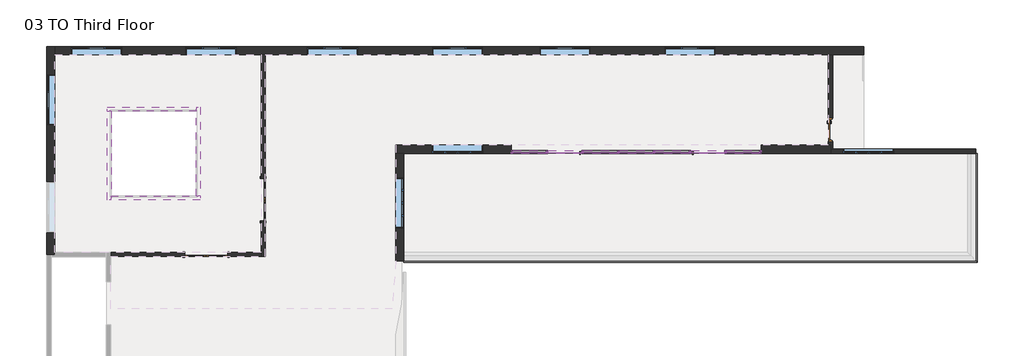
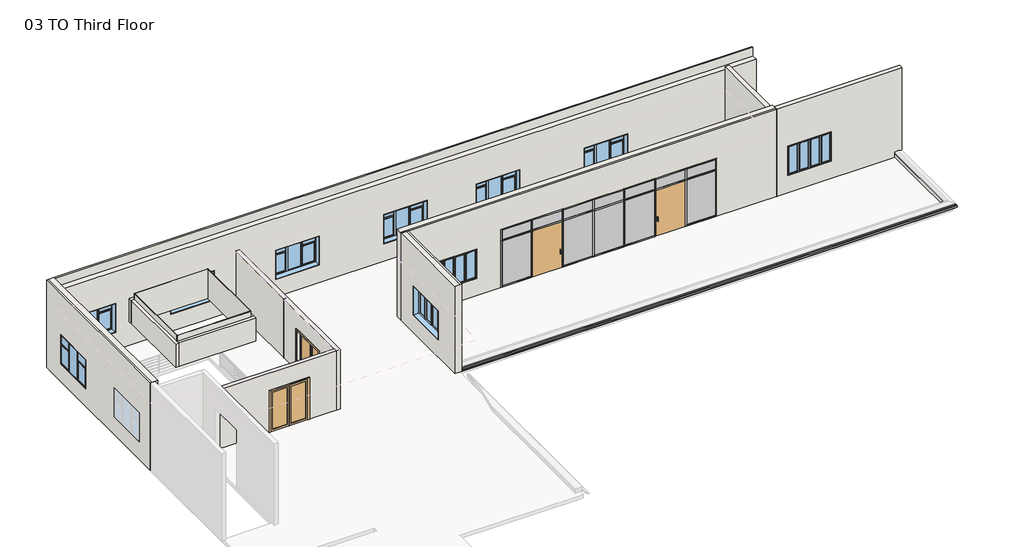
# One storey, part 2 of 3: 35 members, 15 walls, 12 plates, 10 windows, 5 doors, 2 proxies.
"""IFC4 building model written with IfcOpenShell, lengths in millimetres."""

from ifc_helpers import new_model, si_unit, frame, origin, place, context, project, spatial, polyline, outline, extrude, faceted_brep, transform, mapped, element, save
from components import door_curtain_wall_single_glass_single_glass_door_636c359d, door_curtain_wall_single_glass_single_glass_door_c1f067f7, door_38a2a0c9, door_c4c6d6d8, member_f0fea5a5, member_ee409385, member_5599eeff, member_9faf9a02, member_3e00a44d, member_1f7e5a3f, member_6e77e263, member_47bfaf8a, system_panel_glazed_c45153f5, system_panel_glazed_32f3d69c, system_panel_glazed_47a57bc4, system_panel_glazed_e930eb41, window_c7d59df6, window_634df5ac, window_casement_triple_side_transom_c3c25feb

model = new_model("IFC4")

# Units and contexts
model_context = context("Model", 3, world=origin())
ifc_project = project(units=[si_unit("LENGTHUNIT", "METRE", prefix="MILLI")], contexts=[model_context])

# Site, building, storey
site = spatial("IfcSite", under=ifc_project)
building = spatial("IfcBuilding", under=site)
storey = spatial("IfcBuildingStorey", under=building, Name="03 TO Third Floor", Elevation=9144.0)

# Proxies
placement = place(None, origin())
element("IfcBuildingElementProxy", 1, Name="Reveals", at=placement, inside=storey, context=model_context, shape_type="SweptSolid", body=[
    extrude(outline(polyline([(-4282.7273699, 39.4996638), (-4282.7273699, 131.5746638), (20075.8726301, 131.5746638), (20167.9476301, 39.4996638), (-4282.7273699, 39.4996638)])), frame((0.0, 0.0, 9220.2), z_axis=(0.0, 0.0, 1.0), x_axis=(1.0, 0.0, 0.0)), (0.0, 0.0, 1.0), 67.7333333),
])
element("IfcBuildingElementProxy", 2, Name="Reveals", at=placement, inside=storey, context=model_context, shape_type="SweptSolid", body=[
    extrude(outline(polyline([(20167.9476301, 39.4996638), (20075.8726301, 131.5746638), (20075.8726301, 4678.1746638), (20167.9476301, 4678.1746638), (20167.9476301, 39.4996638)])), frame((0.0, 0.0, 9220.2), z_axis=(0.0, 0.0, 1.0), x_axis=(1.0, 0.0, 0.0)), (0.0, 0.0, 1.0), 67.7333333),
])

# Doors
door_curtain_wall_single_glass_single_glass_door_shape = door_curtain_wall_single_glass_single_glass_door_636c359d(model_context)
element("IfcDoor", 3, ObjectType="Door-Curtain-Wall-Single-Glass : Single Glass Door", at=placement, inside=storey, context=model_context, shape_type="MappedRepresentation", body=[
    mapped(door_curtain_wall_single_glass_single_glass_door_shape, transform((8671.2726299, 4741.6746638, 9144.0), x_axis=(1.0, 0.0, 0.0), y_axis=(0.0, 1.0, 0.0), z_axis=(0.0, 0.0, 1.0))),
])
door_curtain_wall_single_glass_single_glass_door_2_shape = door_curtain_wall_single_glass_single_glass_door_c1f067f7(model_context)
element("IfcDoor", 4, ObjectType="Door-Curtain-Wall-Single-Glass : Single Glass Door", at=placement, inside=storey, context=model_context, shape_type="MappedRepresentation", body=[
    mapped(door_curtain_wall_single_glass_single_glass_door_2_shape, transform((2575.2726302, 4741.6746638, 9144.0), x_axis=(-1.0, 0.0, 0.0), y_axis=(0.0, -1.0, 0.0), z_axis=(0.0, 0.0, 1.0))),
])
door_shape = door_38a2a0c9(model_context)
element("IfcDoor", 5, ObjectType="Door-Double-Glass : Door Double Glass_72\" x 84\"", at=placement, inside=storey, context=model_context, shape_type="MappedRepresentation", body=[
    mapped(door_shape, transform((-10289.0336199, 2706.4996638, 9144.0), x_axis=(0.0, -1.0, 0.0), y_axis=(1.0, 0.0, 0.0), z_axis=(0.0, 0.0, 1.0))),
])
element("IfcDoor", 6, ObjectType="Door-Double-Glass : Door Double Glass_72\" x 84\"", at=placement, inside=storey, context=model_context, shape_type="MappedRepresentation", body=[
    mapped(door_shape, transform((-12715.5273699, 372.0809138, 9144.0), x_axis=(-1.0, 0.0, 0.0), y_axis=(0.0, -1.0, 0.0), z_axis=(0.0, 0.0, 1.0))),
])
door_2_shape = door_c4c6d6d8(model_context)
element("IfcDoor", 7, ObjectType="Door-Passage-Single-Flush : Door Passage Single Flush_36\" x 80\"", at=placement, inside=storey, context=model_context, shape_type="MappedRepresentation", body=[
    mapped(door_2_shape, transform((13910.0226301, 5694.1746638, 9144.0), x_axis=(0.0, -1.0, 0.0), y_axis=(1.0, 0.0, 0.0), z_axis=(0.0, 0.0, 1.0))),
])

# Members
member_shape = member_f0fea5a5(model_context)
element("IfcMember", 8, ObjectType="Rectangular Mullion : 2.5\" x 5\" rectangular", at=placement, inside=storey, context=model_context, shape_type="MappedRepresentation", body=[
    mapped(member_shape, transform((1813.2726303, 4741.6746638, 9144.0), x_axis=(1.0, 0.0, 0.0), y_axis=(0.0, -1.0, 0.0), z_axis=(0.0, 0.0, -1.0))),
])
element("IfcMember", 9, ObjectType="Rectangular Mullion : 2.5\" x 5\" rectangular", at=placement, inside=storey, context=model_context, shape_type="MappedRepresentation", body=[
    mapped(member_shape, transform((3337.2726302, 4741.6746638, 9144.0), x_axis=(1.0, 0.0, 0.0), y_axis=(0.0, -1.0, 0.0), z_axis=(0.0, 0.0, -1.0))),
])
element("IfcMember", 10, ObjectType="Rectangular Mullion : 2.5\" x 5\" rectangular", at=placement, inside=storey, context=model_context, shape_type="MappedRepresentation", body=[
    mapped(member_shape, transform((4861.2726301, 4741.6746638, 9144.0), x_axis=(1.0, 0.0, 0.0), y_axis=(0.0, -1.0, 0.0), z_axis=(0.0, 0.0, -1.0))),
])
element("IfcMember", 11, ObjectType="Rectangular Mullion : 2.5\" x 5\" rectangular", at=placement, inside=storey, context=model_context, shape_type="MappedRepresentation", body=[
    mapped(member_shape, transform((6385.27263, 4741.6746638, 9144.0), x_axis=(1.0, 0.0, 0.0), y_axis=(0.0, -1.0, 0.0), z_axis=(0.0, 0.0, -1.0))),
])
element("IfcMember", 12, ObjectType="Rectangular Mullion : 2.5\" x 5\" rectangular", at=placement, inside=storey, context=model_context, shape_type="MappedRepresentation", body=[
    mapped(member_shape, transform((7909.2726299, 4741.6746638, 9144.0), x_axis=(1.0, 0.0, 0.0), y_axis=(0.0, -1.0, 0.0), z_axis=(0.0, 0.0, -1.0))),
])
element("IfcMember", 13, ObjectType="Rectangular Mullion : 2.5\" x 5\" rectangular", at=placement, inside=storey, context=model_context, shape_type="MappedRepresentation", body=[
    mapped(member_shape, transform((9433.2726298, 4741.6746638, 9144.0), x_axis=(1.0, 0.0, 0.0), y_axis=(0.0, -1.0, 0.0), z_axis=(0.0, 0.0, -1.0))),
])
member_2_shape = member_ee409385(model_context)
element("IfcMember", 14, ObjectType="Rectangular Mullion : 2.5\" x 5\" rectangular", at=placement, inside=storey, context=model_context, shape_type="MappedRepresentation", body=[
    mapped(member_2_shape, transform((10957.2726301, 4741.6746638, 9144.0), x_axis=(1.0, 0.0, 0.0), y_axis=(0.0, -1.0, 0.0), z_axis=(0.0, 0.0, -1.0))),
])
element("IfcMember", 15, ObjectType="Rectangular Mullion : 2.5\" x 5\" rectangular", at=placement, inside=storey, context=model_context, shape_type="MappedRepresentation", body=[
    mapped(member_2_shape, transform((289.2726301, 4741.6746638, 11582.4), x_axis=(-1.0, 0.0, 0.0), y_axis=(0.0, -1.0, 0.0), z_axis=(0.0, 0.0, 1.0))),
])
member_3_shape = member_5599eeff(model_context)
element("IfcMember", 16, ObjectType="Rectangular Mullion : 2.5\" x 5\" rectangular", at=placement, inside=storey, context=model_context, shape_type="MappedRepresentation", body=[
    mapped(member_3_shape, transform((10893.7726301, 4741.6746638, 12192.0), x_axis=(0.0, 0.0, 1.0), y_axis=(0.0, -1.0, 0.0), z_axis=(1.0, 0.0, 0.0))),
])
element("IfcMember", 17, ObjectType="Rectangular Mullion : 2.5\" x 5\" rectangular", at=placement, inside=storey, context=model_context, shape_type="MappedRepresentation", body=[
    mapped(member_3_shape, transform((1781.5226303, 4741.6746638, 12192.0), x_axis=(0.0, 0.0, 1.0), y_axis=(0.0, -1.0, 0.0), z_axis=(1.0, 0.0, 0.0))),
])
member_4_shape = member_9faf9a02(model_context)
element("IfcMember", 18, ObjectType="Rectangular Mullion : 2.5\" x 5\" rectangular", at=placement, inside=storey, context=model_context, shape_type="MappedRepresentation", body=[
    mapped(member_4_shape, transform((3305.5226302, 4741.6746638, 12192.0), x_axis=(0.0, 0.0, 1.0), y_axis=(0.0, -1.0, 0.0), z_axis=(1.0, 0.0, 0.0))),
])
element("IfcMember", 19, ObjectType="Rectangular Mullion : 2.5\" x 5\" rectangular", at=placement, inside=storey, context=model_context, shape_type="MappedRepresentation", body=[
    mapped(member_4_shape, transform((4829.5226301, 4741.6746638, 12192.0), x_axis=(0.0, 0.0, 1.0), y_axis=(0.0, -1.0, 0.0), z_axis=(1.0, 0.0, 0.0))),
])
element("IfcMember", 20, ObjectType="Rectangular Mullion : 2.5\" x 5\" rectangular", at=placement, inside=storey, context=model_context, shape_type="MappedRepresentation", body=[
    mapped(member_4_shape, transform((6353.52263, 4741.6746638, 12192.0), x_axis=(0.0, 0.0, 1.0), y_axis=(0.0, -1.0, 0.0), z_axis=(1.0, 0.0, 0.0))),
])
element("IfcMember", 21, ObjectType="Rectangular Mullion : 2.5\" x 5\" rectangular", at=placement, inside=storey, context=model_context, shape_type="MappedRepresentation", body=[
    mapped(member_4_shape, transform((7877.5226299, 4741.6746638, 12192.0), x_axis=(0.0, 0.0, 1.0), y_axis=(0.0, -1.0, 0.0), z_axis=(1.0, 0.0, 0.0))),
])
element("IfcMember", 22, ObjectType="Rectangular Mullion : 2.5\" x 5\" rectangular", at=placement, inside=storey, context=model_context, shape_type="MappedRepresentation", body=[
    mapped(member_4_shape, transform((9401.5226298, 4741.6746638, 12192.0), x_axis=(0.0, 0.0, 1.0), y_axis=(0.0, -1.0, 0.0), z_axis=(1.0, 0.0, 0.0))),
])
element("IfcMember", 23, ObjectType="Rectangular Mullion : 2.5\" x 5\" rectangular", at=placement, inside=storey, context=model_context, shape_type="MappedRepresentation", body=[
    mapped(member_3_shape, transform((352.7726301, 4741.6746638, 9144.0), x_axis=(0.0, 0.0, -1.0), y_axis=(0.0, -1.0, 0.0), z_axis=(-1.0, 0.0, 0.0))),
])
element("IfcMember", 24, ObjectType="Rectangular Mullion : 2.5\" x 5\" rectangular", at=placement, inside=storey, context=model_context, shape_type="MappedRepresentation", body=[
    mapped(member_3_shape, transform((9465.0226298, 4741.6746638, 9144.0), x_axis=(0.0, 0.0, -1.0), y_axis=(0.0, -1.0, 0.0), z_axis=(-1.0, 0.0, 0.0))),
])
element("IfcMember", 25, ObjectType="Rectangular Mullion : 2.5\" x 5\" rectangular", at=placement, inside=storey, context=model_context, shape_type="MappedRepresentation", body=[
    mapped(member_4_shape, transform((3369.0226302, 4741.6746638, 9144.0), x_axis=(0.0, 0.0, -1.0), y_axis=(0.0, -1.0, 0.0), z_axis=(-1.0, 0.0, 0.0))),
])
element("IfcMember", 26, ObjectType="Rectangular Mullion : 2.5\" x 5\" rectangular", at=placement, inside=storey, context=model_context, shape_type="MappedRepresentation", body=[
    mapped(member_4_shape, transform((4893.0226301, 4741.6746638, 9144.0), x_axis=(0.0, 0.0, -1.0), y_axis=(0.0, -1.0, 0.0), z_axis=(-1.0, 0.0, 0.0))),
])
element("IfcMember", 27, ObjectType="Rectangular Mullion : 2.5\" x 5\" rectangular", at=placement, inside=storey, context=model_context, shape_type="MappedRepresentation", body=[
    mapped(member_4_shape, transform((6417.02263, 4741.6746638, 9144.0), x_axis=(0.0, 0.0, -1.0), y_axis=(0.0, -1.0, 0.0), z_axis=(-1.0, 0.0, 0.0))),
])
member_5_shape = member_3e00a44d(model_context)
element("IfcMember", 28, ObjectType="Rectangular Mullion : 2.5\" x 5\" rectangular", at=placement, inside=storey, context=model_context, shape_type="MappedRepresentation", body=[
    mapped(member_5_shape, transform((1781.5226303, 4741.6746638, 11582.4), x_axis=(0.0, 0.0, 1.0), y_axis=(0.0, -1.0, 0.0), z_axis=(1.0, 0.0, 0.0))),
])
element("IfcMember", 29, ObjectType="Rectangular Mullion : 2.5\" x 5\" rectangular", at=placement, inside=storey, context=model_context, shape_type="MappedRepresentation", body=[
    mapped(member_5_shape, transform((10893.7726301, 4741.6746638, 11582.4), x_axis=(0.0, 0.0, 1.0), y_axis=(0.0, -1.0, 0.0), z_axis=(1.0, 0.0, 0.0))),
])
member_6_shape = member_1f7e5a3f(model_context)
element("IfcMember", 30, ObjectType="Rectangular Mullion : 2.5\" x 5\" rectangular", at=placement, inside=storey, context=model_context, shape_type="MappedRepresentation", body=[
    mapped(member_6_shape, transform((3305.5226302, 4741.6746638, 11582.4), x_axis=(0.0, 0.0, 1.0), y_axis=(0.0, -1.0, 0.0), z_axis=(1.0, 0.0, 0.0))),
])
element("IfcMember", 31, ObjectType="Rectangular Mullion : 2.5\" x 5\" rectangular", at=placement, inside=storey, context=model_context, shape_type="MappedRepresentation", body=[
    mapped(member_6_shape, transform((4829.5226301, 4741.6746638, 11582.4), x_axis=(0.0, 0.0, 1.0), y_axis=(0.0, -1.0, 0.0), z_axis=(1.0, 0.0, 0.0))),
])
element("IfcMember", 32, ObjectType="Rectangular Mullion : 2.5\" x 5\" rectangular", at=placement, inside=storey, context=model_context, shape_type="MappedRepresentation", body=[
    mapped(member_6_shape, transform((6353.52263, 4741.6746638, 11582.4), x_axis=(0.0, 0.0, 1.0), y_axis=(0.0, -1.0, 0.0), z_axis=(1.0, 0.0, 0.0))),
])
element("IfcMember", 33, ObjectType="Rectangular Mullion : 2.5\" x 5\" rectangular", at=placement, inside=storey, context=model_context, shape_type="MappedRepresentation", body=[
    mapped(member_6_shape, transform((7877.5226299, 4741.6746638, 11582.4), x_axis=(0.0, 0.0, 1.0), y_axis=(0.0, -1.0, 0.0), z_axis=(1.0, 0.0, 0.0))),
])
element("IfcMember", 34, ObjectType="Rectangular Mullion : 2.5\" x 5\" rectangular", at=placement, inside=storey, context=model_context, shape_type="MappedRepresentation", body=[
    mapped(member_6_shape, transform((9401.5226298, 4741.6746638, 11582.4), x_axis=(0.0, 0.0, 1.0), y_axis=(0.0, -1.0, 0.0), z_axis=(1.0, 0.0, 0.0))),
])
member_7_shape = member_6e77e263(model_context)
element("IfcMember", 35, ObjectType="Rectangular Mullion : 2.5\" x 5\" rectangular", at=placement, inside=storey, context=model_context, shape_type="MappedRepresentation", body=[
    mapped(member_7_shape, transform((1813.2726303, 4741.6746638, 11582.4), x_axis=(1.0, 0.0, 0.0), y_axis=(0.0, -1.0, 0.0), z_axis=(0.0, 0.0, -1.0))),
])
element("IfcMember", 36, ObjectType="Rectangular Mullion : 2.5\" x 5\" rectangular", at=placement, inside=storey, context=model_context, shape_type="MappedRepresentation", body=[
    mapped(member_7_shape, transform((3337.2726302, 4741.6746638, 11582.4), x_axis=(1.0, 0.0, 0.0), y_axis=(0.0, -1.0, 0.0), z_axis=(0.0, 0.0, -1.0))),
])
element("IfcMember", 37, ObjectType="Rectangular Mullion : 2.5\" x 5\" rectangular", at=placement, inside=storey, context=model_context, shape_type="MappedRepresentation", body=[
    mapped(member_7_shape, transform((4861.2726301, 4741.6746638, 11582.4), x_axis=(1.0, 0.0, 0.0), y_axis=(0.0, -1.0, 0.0), z_axis=(0.0, 0.0, -1.0))),
])
element("IfcMember", 38, ObjectType="Rectangular Mullion : 2.5\" x 5\" rectangular", at=placement, inside=storey, context=model_context, shape_type="MappedRepresentation", body=[
    mapped(member_7_shape, transform((6385.27263, 4741.6746638, 11582.4), x_axis=(1.0, 0.0, 0.0), y_axis=(0.0, -1.0, 0.0), z_axis=(0.0, 0.0, -1.0))),
])
element("IfcMember", 39, ObjectType="Rectangular Mullion : 2.5\" x 5\" rectangular", at=placement, inside=storey, context=model_context, shape_type="MappedRepresentation", body=[
    mapped(member_7_shape, transform((7909.2726299, 4741.6746638, 11582.4), x_axis=(1.0, 0.0, 0.0), y_axis=(0.0, -1.0, 0.0), z_axis=(0.0, 0.0, -1.0))),
])
element("IfcMember", 40, ObjectType="Rectangular Mullion : 2.5\" x 5\" rectangular", at=placement, inside=storey, context=model_context, shape_type="MappedRepresentation", body=[
    mapped(member_7_shape, transform((9433.2726298, 4741.6746638, 11582.4), x_axis=(1.0, 0.0, 0.0), y_axis=(0.0, -1.0, 0.0), z_axis=(0.0, 0.0, -1.0))),
])
member_8_shape = member_47bfaf8a(model_context)
element("IfcMember", 41, ObjectType="Rectangular Mullion : 2.5\" x 5\" rectangular", at=placement, inside=storey, context=model_context, shape_type="MappedRepresentation", body=[
    mapped(member_8_shape, transform((10957.2726301, 4741.6746638, 11582.4), x_axis=(1.0, 0.0, 0.0), y_axis=(0.0, -1.0, 0.0), z_axis=(0.0, 0.0, -1.0))),
])
element("IfcMember", 42, ObjectType="Rectangular Mullion : 2.5\" x 5\" rectangular", at=placement, inside=storey, context=model_context, shape_type="MappedRepresentation", body=[
    mapped(member_8_shape, transform((289.2726301, 4741.6746638, 12192.0), x_axis=(-1.0, 0.0, 0.0), y_axis=(0.0, -1.0, 0.0), z_axis=(0.0, 0.0, 1.0))),
])

# Plates
system_panel_glazed_shape = system_panel_glazed_c45153f5(model_context)
element("IfcPlate", 43, ObjectType="System Panel : Glazed", at=placement, inside=storey, context=model_context, shape_type="MappedRepresentation", body=[
    mapped(system_panel_glazed_shape, transform((1067.1476302, 4741.6746638, 9207.5), x_axis=(1.0, 0.0, 0.0), y_axis=(0.0, 1.0, 0.0), z_axis=(0.0, 0.0, 1.0))),
])
element("IfcPlate", 44, ObjectType="System Panel : Glazed", at=placement, inside=storey, context=model_context, shape_type="MappedRepresentation", body=[
    mapped(system_panel_glazed_shape, transform((10179.3976299, 4741.6746638, 9207.5), x_axis=(1.0, 0.0, 0.0), y_axis=(0.0, 1.0, 0.0), z_axis=(0.0, 0.0, 1.0))),
])
system_panel_glazed_2_shape = system_panel_glazed_32f3d69c(model_context)
element("IfcPlate", 45, ObjectType="System Panel : Glazed", at=placement, inside=storey, context=model_context, shape_type="MappedRepresentation", body=[
    mapped(system_panel_glazed_2_shape, transform((4099.2726301, 4741.6746638, 9207.5), x_axis=(1.0, 0.0, 0.0), y_axis=(0.0, 1.0, 0.0), z_axis=(0.0, 0.0, 1.0))),
])
element("IfcPlate", 46, ObjectType="System Panel : Glazed", at=placement, inside=storey, context=model_context, shape_type="MappedRepresentation", body=[
    mapped(system_panel_glazed_2_shape, transform((5623.2726301, 4741.6746638, 9207.5), x_axis=(1.0, 0.0, 0.0), y_axis=(0.0, 1.0, 0.0), z_axis=(0.0, 0.0, 1.0))),
])
element("IfcPlate", 47, ObjectType="System Panel : Glazed", at=placement, inside=storey, context=model_context, shape_type="MappedRepresentation", body=[
    mapped(system_panel_glazed_2_shape, transform((7147.27263, 4741.6746638, 9207.5), x_axis=(1.0, 0.0, 0.0), y_axis=(0.0, 1.0, 0.0), z_axis=(0.0, 0.0, 1.0))),
])
system_panel_glazed_3_shape = system_panel_glazed_47a57bc4(model_context)
element("IfcPlate", 48, ObjectType="System Panel : Glazed", at=placement, inside=storey, context=model_context, shape_type="MappedRepresentation", body=[
    mapped(system_panel_glazed_3_shape, transform((1067.1476302, 4741.6746638, 11614.15), x_axis=(1.0, 0.0, 0.0), y_axis=(0.0, 1.0, 0.0), z_axis=(0.0, 0.0, 1.0))),
])
element("IfcPlate", 49, ObjectType="System Panel : Glazed", at=placement, inside=storey, context=model_context, shape_type="MappedRepresentation", body=[
    mapped(system_panel_glazed_3_shape, transform((10179.3976299, 4741.6746638, 11614.15), x_axis=(1.0, 0.0, 0.0), y_axis=(0.0, 1.0, 0.0), z_axis=(0.0, 0.0, 1.0))),
])
system_panel_glazed_4_shape = system_panel_glazed_e930eb41(model_context)
element("IfcPlate", 50, ObjectType="System Panel : Glazed", at=placement, inside=storey, context=model_context, shape_type="MappedRepresentation", body=[
    mapped(system_panel_glazed_4_shape, transform((2575.2726302, 4741.6746638, 11614.15), x_axis=(1.0, 0.0, 0.0), y_axis=(0.0, 1.0, 0.0), z_axis=(0.0, 0.0, 1.0))),
])
element("IfcPlate", 51, ObjectType="System Panel : Glazed", at=placement, inside=storey, context=model_context, shape_type="MappedRepresentation", body=[
    mapped(system_panel_glazed_4_shape, transform((4099.2726301, 4741.6746638, 11614.15), x_axis=(1.0, 0.0, 0.0), y_axis=(0.0, 1.0, 0.0), z_axis=(0.0, 0.0, 1.0))),
])
element("IfcPlate", 52, ObjectType="System Panel : Glazed", at=placement, inside=storey, context=model_context, shape_type="MappedRepresentation", body=[
    mapped(system_panel_glazed_4_shape, transform((5623.2726301, 4741.6746638, 11614.15), x_axis=(1.0, 0.0, 0.0), y_axis=(0.0, 1.0, 0.0), z_axis=(0.0, 0.0, 1.0))),
])
element("IfcPlate", 53, ObjectType="System Panel : Glazed", at=placement, inside=storey, context=model_context, shape_type="MappedRepresentation", body=[
    mapped(system_panel_glazed_4_shape, transform((7147.27263, 4741.6746638, 11614.15), x_axis=(1.0, 0.0, 0.0), y_axis=(0.0, 1.0, 0.0), z_axis=(0.0, 0.0, 1.0))),
])
element("IfcPlate", 54, ObjectType="System Panel : Glazed", at=placement, inside=storey, context=model_context, shape_type="MappedRepresentation", body=[
    mapped(system_panel_glazed_4_shape, transform((8671.2726299, 4741.6746638, 11614.15), x_axis=(1.0, 0.0, 0.0), y_axis=(0.0, 1.0, 0.0), z_axis=(0.0, 0.0, 1.0))),
])

# Walls
element("IfcWall", 55, ObjectType="Ext Wall_14\"_Brick on CMU_E1", at=placement, inside=storey, context=model_context, shape_type="Brep", body=[
    faceted_brep([(-19167.1273699, 8894.5746638, 9144.0), (-10378.7273699, 8894.5746638, 9144.0), (-10200.9273699, 8894.5746638, 9144.0), (-10194.5773699, 8894.5746638, 9144.0), (15326.0726301, 8894.5746638, 9144.0), (15326.0726301, 8894.5746638, 13258.8), (-19167.1273699, 8894.5746638, 13258.8), (8988.7726301, 8894.5746638, 11582.4), (8988.7726301, 8894.5746638, 10058.4), (6829.7726301, 8894.5746638, 10058.4), (6829.7726301, 8894.5746638, 11582.4), (3654.7726301, 8894.5746638, 11582.4), (3654.7726301, 8894.5746638, 10058.4), (1495.7726301, 8894.5746638, 10058.4), (1495.7726301, 8894.5746638, 11582.4), (-917.2273699, 8894.5746638, 11582.4), (-917.2273699, 8894.5746638, 10058.4), (-3076.2273699, 8894.5746638, 10058.4), (-3076.2273699, 8894.5746638, 11582.4), (-16309.6273699, 8894.5746638, 11582.4), (-16309.6273699, 8894.5746638, 10058.4), (-18468.6273699, 8894.5746638, 10058.4), (-18468.6273699, 8894.5746638, 11582.4), (-11432.8273699, 8894.5746638, 11582.4), (-11432.8273699, 8894.5746638, 10058.4), (-13591.8273699, 8894.5746638, 10058.4), (-13591.8273699, 8894.5746638, 11582.4), (-6251.2273699, 8894.5746638, 11582.4), (-6251.2273699, 8894.5746638, 10058.4), (-8410.2273699, 8894.5746638, 10058.4), (-8410.2273699, 8894.5746638, 11582.4), (-19167.1273699, 9250.1746638, 9144.0), (-19167.1273699, 9250.1746638, 13716.0), (15326.0726301, 9250.1746638, 13716.0), (15326.0726301, 9250.1746638, 9144.0), (-10200.9273699, 9250.1746638, 9144.0), (8988.7726301, 9250.1746638, 11582.4), (6829.7726301, 9250.1746638, 11582.4), (6829.7726301, 9250.1746638, 10058.4), (8988.7726301, 9250.1746638, 10058.4), (3654.7726301, 9250.1746638, 11582.4), (1495.7726301, 9250.1746638, 11582.4), (1495.7726301, 9250.1746638, 10058.4), (3654.7726301, 9250.1746638, 10058.4), (-917.2273699, 9250.1746638, 11582.4), (-3076.2273699, 9250.1746638, 11582.4), (-3076.2273699, 9250.1746638, 10058.4), (-917.2273699, 9250.1746638, 10058.4), (-16309.6273699, 9250.1746638, 11582.4), (-18468.6273699, 9250.1746638, 11582.4), (-18468.6273699, 9250.1746638, 10058.4), (-16309.6273699, 9250.1746638, 10058.4), (-11432.8273699, 9250.1746638, 11582.4), (-13591.8273699, 9250.1746638, 11582.4), (-13591.8273699, 9250.1746638, 10058.4), (-11432.8273699, 9250.1746638, 10058.4), (-6251.2273699, 9250.1746638, 11582.4), (-8410.2273699, 9250.1746638, 11582.4), (-8410.2273699, 9250.1746638, 10058.4), (-6251.2273699, 9250.1746638, 10058.4), (15326.0726301, 9173.9746638, 9144.0), (15326.0726301, 9173.9746638, 13716.0), (15326.0726301, 9173.9746638, 13258.8), (-19167.1273699, 9173.9746638, 13258.8), (-19167.1273699, 9173.9746638, 13716.0), (-19167.1273699, 9173.9746638, 9144.0)], [[[0, 1, 2, 3, 4, 5, 6], [7, 8, 9, 10], [11, 12, 13, 14], [15, 16, 17, 18], [19, 20, 21, 22], [23, 24, 25, 26], [27, 28, 29, 30]], [[31, 32, 33, 34, 35], [36, 37, 38, 39], [40, 41, 42, 43], [44, 45, 46, 47], [48, 49, 50, 51], [52, 53, 54, 55], [56, 57, 58, 59]], [[5, 4, 60, 34, 33, 61, 62]], [[0, 6, 63, 64, 32, 31, 65]], [[8, 7, 36, 39]], [[9, 8, 39, 38]], [[10, 9, 38, 37]], [[7, 10, 37, 36]], [[12, 11, 40, 43]], [[13, 12, 43, 42]], [[14, 13, 42, 41]], [[11, 14, 41, 40]], [[16, 15, 44, 47]], [[17, 16, 47, 46]], [[18, 17, 46, 45]], [[15, 18, 45, 44]], [[20, 19, 48, 51]], [[21, 20, 51, 50]], [[22, 21, 50, 49]], [[19, 22, 49, 48]], [[24, 23, 52, 55]], [[25, 24, 55, 54]], [[26, 25, 54, 53]], [[23, 26, 53, 52]], [[28, 27, 56, 59]], [[29, 28, 59, 58]], [[30, 29, 58, 57]], [[27, 30, 57, 56]], [[4, 3, 2, 1, 0, 65, 60]], [[65, 31, 35, 34, 60]], [[61, 33, 32, 64]], [[63, 62, 61, 64]], [[6, 5, 62, 63]]]),
])
element("IfcWall", 56, ObjectType="Ext Wall_14\"_Brick on CMU_E1", at=placement, inside=storey, context=model_context, shape_type="Brep", body=[
    faceted_brep([(-4638.3273699, 5033.7746638, 9144.0), (-4638.3273699, 5033.7746638, 13716.0), (13903.6726301, 5033.7746638, 13716.0), (13903.6726301, 5033.7746638, 9144.0), (10957.2726301, 5033.7746638, 9144.0), (10957.2726301, 5033.7746638, 12192.0), (289.2726301, 5033.7746638, 12192.0), (289.2726301, 5033.7746638, 9144.0), (-3076.2273699, 5033.7746638, 11582.4), (-3076.2273699, 5033.7746638, 10058.4), (-917.2273699, 5033.7746638, 10058.4), (-917.2273699, 5033.7746638, 11582.4), (13903.6726301, 4678.1746638, 13716.0), (-4282.7273699, 4678.1746638, 13716.0), (-4638.3273699, 4678.1746638, 13716.0), (-4638.3273699, 4678.1746638, 9144.0), (-4282.7273699, 4678.1746638, 9144.0), (289.2726301, 4678.1746638, 9144.0), (289.2726301, 4678.1746638, 12192.0), (10957.2726301, 4678.1746638, 12192.0), (10957.2726301, 4678.1746638, 9144.0), (13903.6726301, 4678.1746638, 9144.0), (-3076.2273699, 4678.1746638, 11582.4), (-917.2273699, 4678.1746638, 11582.4), (-917.2273699, 4678.1746638, 10058.4), (-3076.2273699, 4678.1746638, 10058.4), (-4638.3273699, 4754.3746638, 9144.0), (-4638.3273699, 4754.3746638, 13716.0), (289.2726301, 4754.3746638, 9144.0), (10957.2726301, 4754.3746638, 9144.0), (13903.6726301, 4754.3746638, 13716.0), (13903.6726301, 4754.3746638, 9144.0)], [[[0, 1, 2, 3, 4, 5, 6, 7], [8, 9, 10, 11]], [[12, 13, 14, 15, 16, 17, 18, 19, 20, 21], [22, 23, 24, 25]], [[1, 0, 26, 15, 14, 27]], [[6, 18, 17, 28, 7]], [[19, 5, 4, 29, 20]], [[5, 19, 18, 6]], [[9, 8, 22, 25]], [[10, 9, 25, 24]], [[11, 10, 24, 23]], [[8, 11, 23, 22]], [[3, 2, 30, 12, 21, 31]], [[26, 0, 7, 28]], [[3, 31, 29, 4]], [[31, 21, 20, 29]], [[15, 26, 28, 17, 16]], [[14, 13, 12, 30, 27]], [[2, 1, 27, 30]]]),
])
element("IfcWall", 57, ObjectType="Ext Wall_14\"_Brick on CMU_E1", at=placement, inside=storey, context=model_context, shape_type="Brep", body=[
    faceted_brep([(-4638.3273699, 4678.1746638, 9144.0), (-4638.3273699, 102.363521, 9144.0), (-4638.3273699, 102.363521, 13716.0), (-4638.3273699, 4678.1746638, 13716.0), (-4638.3273699, 1490.4746638, 11582.4), (-4638.3273699, 1490.4746638, 10058.4), (-4638.3273699, 3649.4746638, 10058.4), (-4638.3273699, 3649.4746638, 11582.4), (-4282.7273699, 4678.1746638, 9144.0), (-4282.7273699, 4678.1746638, 13716.0), (-4282.7273699, 106.1746638, 13716.0), (-4282.7273699, 106.1746638, 9287.9333333), (-4282.7273699, 106.1746638, 9220.2), (-4282.7273699, 106.1746638, 9144.0), (-4282.7273699, 461.7746638, 9144.0), (-4282.7273699, 1490.4746638, 11582.4), (-4282.7273699, 3649.4746638, 11582.4), (-4282.7273699, 3649.4746638, 10058.4), (-4282.7273699, 1490.4746638, 10058.4), (-4358.9273699, 4678.1746638, 13716.0), (-4358.9273699, 4678.1746638, 9144.0), (-4358.9273699, 105.3579904, 9144.0), (-4358.9273699, 105.3579904, 13716.0)], [[[0, 1, 2, 3], [4, 5, 6, 7]], [[8, 9, 10, 11, 12, 13, 14], [15, 16, 17, 18]], [[0, 3, 19, 9, 8, 20]], [[2, 1, 21, 13, 12, 11, 10, 22]], [[5, 4, 15, 18]], [[6, 5, 18, 17]], [[7, 6, 17, 16]], [[4, 7, 16, 15]], [[1, 0, 20, 21]], [[20, 8, 14, 13, 21]], [[22, 10, 9, 19]], [[3, 2, 22, 19]]]),
])
element("IfcWall", 58, ObjectType="Ext Wall_14\"_Brick on CMU_E1", at=placement, inside=storey, context=model_context, shape_type="Brep", body=[
    faceted_brep([(-19167.1273699, 360.1746638, 13716.0), (-19167.1273699, 360.1746638, 9144.0), (-19167.1273699, 8894.5746638, 9144.0), (-19167.1273699, 9250.1746638, 9144.0), (-19167.1273699, 9250.1746638, 13716.0), (-19167.1273699, 9173.9746638, 13716.0), (-19167.1273699, 8043.6746638, 11582.4), (-19167.1273699, 8043.6746638, 10058.4), (-19167.1273699, 5884.6746638, 10058.4), (-19167.1273699, 5884.6746638, 11582.4), (-19167.1273699, 3471.6746638, 11582.4), (-19167.1273699, 3471.6746638, 10058.4), (-19167.1273699, 1312.6746638, 10058.4), (-19167.1273699, 1312.6746638, 11582.4), (-19522.7273699, 360.1746638, 9144.0), (-19522.7273699, 360.1746638, 13716.0), (-19522.7273699, 9250.1746638, 13716.0), (-19522.7273699, 9250.1746638, 9144.0), (-19522.7273699, 8043.6746638, 11582.4), (-19522.7273699, 5884.6746638, 11582.4), (-19522.7273699, 5884.6746638, 10058.4), (-19522.7273699, 8043.6746638, 10058.4), (-19522.7273699, 3471.6746638, 11582.4), (-19522.7273699, 1312.6746638, 11582.4), (-19522.7273699, 1312.6746638, 10058.4), (-19522.7273699, 3471.6746638, 10058.4), (-19446.5273699, 9250.1746638, 9144.0), (-19446.5273699, 9250.1746638, 13716.0), (-19319.5273699, 360.1746638, 9144.0), (-19446.5273699, 360.1746638, 9144.0), (-19319.5273699, 360.1746638, 13716.0), (-19446.5273699, 360.1746638, 13716.0)], [[[0, 1, 2, 3, 4, 5], [6, 7, 8, 9], [10, 11, 12, 13]], [[14, 15, 16, 17], [18, 19, 20, 21], [22, 23, 24, 25]], [[4, 3, 26, 17, 16, 27]], [[3, 2, 1, 28, 29, 26]], [[29, 14, 17, 26]], [[6, 9, 19, 18]], [[9, 8, 20, 19]], [[8, 7, 21, 20]], [[7, 6, 18, 21]], [[10, 13, 23, 22]], [[13, 12, 24, 23]], [[12, 11, 25, 24]], [[11, 10, 22, 25]], [[0, 30, 31, 15, 14, 29, 28, 1]], [[27, 16, 15, 31]], [[0, 5, 4, 27, 31, 30]]]),
])
element("IfcWall", 59, ObjectType="Ext Wall_Brick on CIP_E4", at=placement, inside=storey, context=model_context, shape_type="Brep", body=[
    faceted_brep([(13903.6726301, 4678.1746638, 13716.0), (13903.6726301, 4678.1746638, 9144.0), (20101.2726301, 4678.1746638, 9144.0), (20101.2726301, 4678.1746638, 13716.0), (14449.7726301, 4678.1746638, 11582.4), (16608.7726301, 4678.1746638, 11582.4), (16608.7726301, 4678.1746638, 10058.4), (14449.7726301, 4678.1746638, 10058.4), (13903.6726301, 4881.3746638, 9144.0), (13903.6726301, 4881.3746638, 13411.2), (13903.6726301, 4881.3746638, 13716.0), (20101.2726301, 4881.3746638, 13716.0), (20101.2726301, 4881.3746638, 9144.0), (14005.2726301, 4881.3746638, 9144.0), (14449.7726301, 4881.3746638, 11582.4), (14449.7726301, 4881.3746638, 10058.4), (16608.7726301, 4881.3746638, 10058.4), (16608.7726301, 4881.3746638, 11582.4)], [[[0, 1, 2, 3], [4, 5, 6, 7]], [[8, 9, 10, 11, 12, 13], [14, 15, 16, 17]], [[2, 1, 8, 13, 12]], [[0, 3, 11, 10]], [[0, 10, 9, 8, 1]], [[15, 14, 4, 7]], [[16, 15, 7, 6]], [[17, 16, 6, 5]], [[14, 17, 5, 4]], [[3, 2, 12, 11]]]),
])
element("IfcWall", 60, ObjectType="IntWall_P1_7 1/4\"", at=placement, inside=storey, context=model_context, shape_type="SweptSolid", body=[
    extrude(outline(polyline([(-10194.5773699, 8894.5746638), (-10194.5773699, 4770.2496638), (-10378.7273699, 4770.2496638), (-10378.7273699, 8894.5746638), (-10194.5773699, 8894.5746638)])), frame((0.0, 0.0, 9144.0), z_axis=(0.0, 0.0, 1.0), x_axis=(1.0, 0.0, 0.0)), (0.0, 0.0, 1.0), 3098.8),
])
element("IfcWall", 61, ObjectType="IntWall_P1_7 1/4\"", at=placement, inside=storey, context=model_context, shape_type="Brep", body=[
    faceted_brep([(-10378.7273699, 1792.0996638, 11277.6), (-10378.7273699, 1792.0996638, 9144.0), (-10378.7273699, 461.7746638, 9144.0), (-10378.7273699, 277.6246638, 9144.0), (-10378.7273699, 277.6246638, 12242.8), (-10378.7273699, 461.7746638, 12242.8), (-10378.7273699, 4770.2496638, 12242.8), (-10378.7273699, 4770.2496638, 9144.0), (-10378.7273699, 3620.8996638, 9144.0), (-10378.7273699, 3620.8996638, 11277.6), (-10194.5773699, 277.6246638, 9144.0), (-10194.5773699, 1792.0996638, 9144.0), (-10194.5773699, 1792.0996638, 11277.6), (-10194.5773699, 3620.8996638, 11277.6), (-10194.5773699, 3620.8996638, 9144.0), (-10194.5773699, 4770.2496638, 9144.0), (-10194.5773699, 4770.2496638, 12242.8), (-10194.5773699, 277.6246638, 12242.8)], [[[0, 1, 2, 3, 4, 5, 6, 7, 8, 9]], [[10, 11, 12, 13, 14, 15, 16, 17]], [[8, 7, 15, 14]], [[3, 2, 1, 11, 10]], [[6, 5, 4, 17, 16]], [[7, 6, 16, 15]], [[4, 3, 10, 17]], [[12, 11, 1, 0]], [[13, 12, 0, 9]], [[14, 13, 9, 8]]]),
])
element("IfcWall", 62, ObjectType="IntWall_P1_7 1/4\"", at=placement, inside=storey, context=model_context, shape_type="SweptSolid", body=[
    extrude(outline(polyline([(9144.0, -16779.5273699), (9144.0, -13629.9273699), (11277.6, -13629.9273699), (11277.6, -11801.1273699), (9144.0, -11801.1273699), (9144.0, -10378.7273699), (12242.8, -10378.7273699), (12242.8, -16779.5273699), (9144.0, -16779.5273699)])), frame((0.0, 277.6246638, 0.0), z_axis=(0.0, 1.0, 0.0), x_axis=(0.0, 0.0, 1.0)), (0.0, 0.0, 1.0), 184.15),
])
element("IfcWall", 63, ObjectType="IntWall_P2_6 5/8\"", at=placement, inside=storey, context=model_context, shape_type="Brep", body=[
    faceted_brep([(-16928.7523699, 6487.9246638, 12192.0), (-16760.4773699, 6487.9246638, 12192.0), (-13140.9773699, 6487.9246638, 12192.0), (-13140.9773699, 6487.9246638, 13716.0), (-16760.4773699, 6487.9246638, 13716.0), (-16776.3523699, 6487.9246638, 13716.0), (-16776.3523699, 6487.9246638, 13411.2), (-16928.7523699, 6487.9246638, 13411.2), (-13140.9773699, 6656.1996638, 12192.0), (-16928.7523699, 6656.1996638, 12192.0), (-16928.7523699, 6656.1996638, 13411.2), (-13140.9773699, 6656.1996638, 13411.2), (-13140.9773699, 6503.7996638, 13411.2), (-13140.9773699, 6503.7996638, 13716.0), (-16776.3523699, 6503.7996638, 13411.2), (-16776.3523699, 6503.7996638, 13716.0)], [[[0, 1, 2, 3, 4, 5, 6, 7]], [[8, 9, 10, 11]], [[2, 1, 0, 9, 8]], [[7, 10, 9, 0]], [[3, 2, 8, 11, 12, 13]], [[11, 10, 7, 6, 14, 12]], [[13, 12, 14, 15]], [[3, 13, 15, 5, 4]], [[14, 6, 5, 15]]]),
])
element("IfcWall", 64, ObjectType="IntWall_P2_6 5/8\"", at=placement, inside=storey, context=model_context, shape_type="Brep", body=[
    faceted_brep([(-16760.4773699, 2700.1496638, 12192.0), (-16760.4773699, 2868.4246638, 12192.0), (-16760.4773699, 6487.9246638, 12192.0), (-16760.4773699, 6487.9246638, 13716.0), (-16760.4773699, 2868.4246638, 13716.0), (-16760.4773699, 2852.5496638, 13716.0), (-16760.4773699, 2852.5496638, 13411.2), (-16760.4773699, 2700.1496638, 13411.2), (-16928.7523699, 6487.9246638, 12192.0), (-16928.7523699, 2700.1496638, 12192.0), (-16928.7523699, 2700.1496638, 13411.2), (-16928.7523699, 6487.9246638, 13411.2), (-16776.3523699, 6487.9246638, 13411.2), (-16776.3523699, 6487.9246638, 13716.0), (-16776.3523699, 2852.5496638, 13411.2), (-16776.3523699, 2852.5496638, 13716.0)], [[[0, 1, 2, 3, 4, 5, 6, 7]], [[8, 9, 10, 11]], [[2, 1, 0, 9, 8]], [[7, 10, 9, 0]], [[3, 2, 8, 11, 12, 13]], [[11, 10, 7, 6, 14, 12]], [[13, 12, 14, 15]], [[3, 13, 15, 5, 4]], [[14, 6, 5, 15]]]),
])
element("IfcWall", 65, ObjectType="IntWall_P2_6 5/8\"", at=placement, inside=storey, context=model_context, shape_type="Brep", body=[
    faceted_brep([(-12972.7023699, 2868.4246638, 12192.0), (-13140.9773699, 2868.4246638, 12192.0), (-16760.4773699, 2868.4246638, 12192.0), (-16760.4773699, 2868.4246638, 13716.0), (-13140.9773699, 2868.4246638, 13716.0), (-13125.1023699, 2868.4246638, 13716.0), (-13125.1023699, 2868.4246638, 13411.2), (-12972.7023699, 2868.4246638, 13411.2), (-16760.4773699, 2700.1496638, 12192.0), (-12972.7023699, 2700.1496638, 12192.0), (-12972.7023699, 2700.1496638, 13411.2), (-16760.4773699, 2700.1496638, 13411.2), (-16760.4773699, 2852.5496638, 13411.2), (-16760.4773699, 2852.5496638, 13716.0), (-13125.1023699, 2852.5496638, 13411.2), (-13125.1023699, 2852.5496638, 13716.0)], [[[0, 1, 2, 3, 4, 5, 6, 7]], [[8, 9, 10, 11]], [[2, 1, 0, 9, 8]], [[7, 10, 9, 0]], [[3, 2, 8, 11, 12, 13]], [[11, 10, 7, 6, 14, 12]], [[13, 12, 14, 15]], [[3, 13, 15, 5, 4]], [[14, 6, 5, 15]]]),
])
element("IfcWall", 66, ObjectType="IntWall_P2_6 5/8\"", at=placement, inside=storey, context=model_context, shape_type="Brep", body=[
    faceted_brep([(-13140.9773699, 6656.1996638, 12192.0), (-13140.9773699, 6487.9246638, 12192.0), (-13140.9773699, 2868.4246638, 12192.0), (-13140.9773699, 2868.4246638, 13716.0), (-13140.9773699, 6487.9246638, 13716.0), (-13140.9773699, 6503.7996638, 13716.0), (-13140.9773699, 6503.7996638, 13411.2), (-13140.9773699, 6656.1996638, 13411.2), (-12972.7023699, 2868.4246638, 12192.0), (-12972.7023699, 6656.1996638, 12192.0), (-12972.7023699, 6656.1996638, 13411.2), (-12972.7023699, 2868.4246638, 13411.2), (-13125.1023699, 2868.4246638, 13411.2), (-13125.1023699, 2868.4246638, 13716.0), (-13125.1023699, 6503.7996638, 13411.2), (-13125.1023699, 6503.7996638, 13716.0)], [[[0, 1, 2, 3, 4, 5, 6, 7]], [[8, 9, 10, 11]], [[2, 1, 0, 9, 8]], [[7, 10, 9, 0]], [[3, 2, 8, 11, 12, 13]], [[11, 10, 7, 6, 14, 12]], [[13, 12, 14, 15]], [[3, 13, 15, 5, 4]], [[14, 6, 5, 15]]]),
])
element("IfcWall", 67, ObjectType="Parapet_14\"_Brick on CMU", at=placement, inside=storey, context=model_context, shape_type="Brep", body=[
    faceted_brep([(-4282.7273699, 106.1746638, 9144.0), (20101.2726301, 106.1746638, 9144.0), (20101.2726301, 106.1746638, 9220.2), (-4282.7273699, 106.1746638, 9220.2), (20101.2726301, 106.1746638, 9347.2), (-4282.7273699, 106.1746638, 9347.2), (-4282.7273699, 106.1746638, 9287.9333333), (20101.2726301, 106.1746638, 9287.9333333), (20101.2726301, 461.7746638, 9144.0), (19745.6726301, 461.7746638, 9144.0), (-4282.7273699, 461.7746638, 9144.0), (-4282.7273699, 461.7746638, 9347.2), (19745.6726301, 461.7746638, 9347.2), (20101.2726301, 461.7746638, 9347.2), (20101.2726301, 461.7746638, 9287.9333333), (20075.8726301, 461.7746638, 9287.9333333), (20075.8726301, 461.7746638, 9220.2), (20101.2726301, 461.7746638, 9220.2), (-4282.7273699, 131.5746638, 9220.2), (-4282.7273699, 131.5746638, 9287.9333333), (20075.8726301, 131.5746638, 9287.9333333), (20075.8726301, 131.5746638, 9220.2)], [[[0, 1, 2, 3]], [[4, 5, 6, 7]], [[8, 9, 10, 11, 12, 13, 14, 15, 16, 17]], [[1, 0, 10, 9, 8]], [[5, 4, 13, 12, 11]], [[1, 8, 17, 2]], [[13, 4, 7, 14]], [[5, 11, 10, 0, 3, 18, 19, 6]], [[20, 19, 18, 21]], [[21, 18, 3, 2, 17, 16]], [[19, 20, 15, 14, 7, 6]], [[20, 21, 16, 15]]]),
])
element("IfcWall", 68, ObjectType="Parapet_14\"_Brick on CMU", at=placement, inside=storey, context=model_context, shape_type="SweptSolid", body=[
    extrude(outline(polyline([(9347.2, 20101.2726301), (9347.2, 19745.6726301), (9144.0, 19745.6726301), (9144.0, 20101.2726301), (9220.2, 20101.2726301), (9220.2, 20075.8726301), (9287.9333333, 20075.8726301), (9287.9333333, 20101.2726301), (9347.2, 20101.2726301)])), frame((0.0, 461.7746638, 0.0), z_axis=(0.0, 1.0, 0.0), x_axis=(0.0, 0.0, 1.0)), (0.0, 0.0, 1.0), 4216.4),
])
element("IfcWall", 69, ObjectType="Shear Wall_S1_8\" CIP", at=placement, inside=storey, context=model_context, shape_type="Brep", body=[
    faceted_brep([(13802.0726301, 5033.7746638, 13411.2), (13802.0726301, 8894.5746638, 13411.2), (13802.0726301, 8894.5746638, 9144.0), (13802.0726301, 6202.1746638, 9144.0), (13802.0726301, 6202.1746638, 11277.6), (13802.0726301, 5186.1746638, 11277.6), (13802.0726301, 5186.1746638, 9144.0), (13802.0726301, 5033.7746638, 9144.0), (14005.2726301, 4881.3746638, 13411.2), (14005.2726301, 4881.3746638, 9144.0), (14005.2726301, 5186.1746638, 9144.0), (14005.2726301, 5186.1746638, 11277.6), (14005.2726301, 6202.1746638, 11277.6), (14005.2726301, 6202.1746638, 9144.0), (14005.2726301, 8894.5746638, 9144.0), (14005.2726301, 8894.5746638, 13411.2), (13903.6726301, 4881.3746638, 9144.0), (13903.6726301, 5033.7746638, 9144.0), (13903.6726301, 5033.7746638, 13411.2), (13903.6726301, 4881.3746638, 13411.2)], [[[0, 1, 2, 3, 4, 5, 6, 7]], [[8, 9, 10, 11, 12, 13, 14, 15]], [[2, 14, 13, 3]], [[9, 16, 17, 7, 6, 10]], [[1, 0, 18, 19, 8, 15]], [[2, 1, 15, 14]], [[0, 7, 17, 18]], [[17, 16, 19, 18]], [[9, 8, 19, 16]], [[5, 11, 10, 6]], [[11, 5, 4, 12]], [[12, 4, 3, 13]]]),
])

# Windows
window_shape = window_c7d59df6(model_context)
element("IfcWindow", 70, ObjectType="Window-Casement-Multi-Sash-Horizontal : Multi Sash Window_A_85\" x 60\"", at=placement, inside=storey, context=model_context, shape_type="MappedRepresentation", body=[
    mapped(window_shape, transform((-1996.7273699, 4855.9746638, 9144.0), x_axis=(-1.0, 0.0, 0.0), y_axis=(0.0, -1.0, 0.0), z_axis=(0.0, 0.0, 1.0))),
])
element("IfcWindow", 71, ObjectType="Window-Casement-Multi-Sash-Horizontal : Multi Sash Window_A_85\" x 60\"", at=placement, inside=storey, context=model_context, shape_type="MappedRepresentation", body=[
    mapped(window_shape, transform((-4460.5273699, 2569.9746638, 9144.0), x_axis=(0.0, -1.0, 0.0), y_axis=(1.0, 0.0, 0.0), z_axis=(0.0, 0.0, 1.0))),
])
window_2_shape = window_634df5ac(model_context)
element("IfcWindow", 72, ObjectType="Window-Casement-Multi-Sash-Horizontal : Multi Sash Window_A_85\" x 60\"", at=placement, inside=storey, context=model_context, shape_type="MappedRepresentation", body=[
    mapped(window_2_shape, transform((15529.2726301, 4779.7746638, 9144.0), x_axis=(-1.0, 0.0, 0.0), y_axis=(0.0, -1.0, 0.0), z_axis=(0.0, 0.0, 1.0))),
])
window_casement_triple_side_transom_shape = window_casement_triple_side_transom_c3c25feb(model_context)
element("IfcWindow", 73, ObjectType="Window-Casement-Triple-Side-Transom : Triple Side WIndow_B_85\" x 60\"", at=placement, inside=storey, context=model_context, shape_type="MappedRepresentation", body=[
    mapped(window_casement_triple_side_transom_shape, transform((-1996.7273699, 9072.3746638, 9144.0), x_axis=(1.0, 0.0, 0.0), y_axis=(0.0, 1.0, 0.0), z_axis=(0.0, 0.0, 1.0))),
])
element("IfcWindow", 74, ObjectType="Window-Casement-Triple-Side-Transom : Triple Side WIndow_B_85\" x 60\"", at=placement, inside=storey, context=model_context, shape_type="MappedRepresentation", body=[
    mapped(window_casement_triple_side_transom_shape, transform((2575.2726301, 9072.3746638, 9144.0), x_axis=(1.0, 0.0, 0.0), y_axis=(0.0, 1.0, 0.0), z_axis=(0.0, 0.0, 1.0))),
])
element("IfcWindow", 75, ObjectType="Window-Casement-Triple-Side-Transom : Triple Side WIndow_B_85\" x 60\"", at=placement, inside=storey, context=model_context, shape_type="MappedRepresentation", body=[
    mapped(window_casement_triple_side_transom_shape, transform((7909.2726301, 9072.3746638, 9144.0), x_axis=(1.0, 0.0, 0.0), y_axis=(0.0, 1.0, 0.0), z_axis=(0.0, 0.0, 1.0))),
])
element("IfcWindow", 76, ObjectType="Window-Casement-Triple-Side-Transom : Triple Side WIndow_B_85\" x 60\"", at=placement, inside=storey, context=model_context, shape_type="MappedRepresentation", body=[
    mapped(window_casement_triple_side_transom_shape, transform((-12512.3273699, 9072.3746638, 9144.0), x_axis=(1.0, 0.0, 0.0), y_axis=(0.0, 1.0, 0.0), z_axis=(0.0, 0.0, 1.0))),
])
element("IfcWindow", 77, ObjectType="Window-Casement-Triple-Side-Transom : Triple Side WIndow_B_85\" x 60\"", at=placement, inside=storey, context=model_context, shape_type="MappedRepresentation", body=[
    mapped(window_casement_triple_side_transom_shape, transform((-17389.1273699, 9072.3746638, 9144.0), x_axis=(1.0, 0.0, 0.0), y_axis=(0.0, 1.0, 0.0), z_axis=(0.0, 0.0, 1.0))),
])
element("IfcWindow", 78, ObjectType="Window-Casement-Triple-Side-Transom : Triple Side WIndow_B_85\" x 60\"", at=placement, inside=storey, context=model_context, shape_type="MappedRepresentation", body=[
    mapped(window_casement_triple_side_transom_shape, transform((-19344.9273699, 6964.1746638, 9144.0), x_axis=(0.0, 1.0, 0.0), y_axis=(-1.0, 0.0, 0.0), z_axis=(0.0, 0.0, 1.0))),
])
element("IfcWindow", 79, ObjectType="Window-Casement-Triple-Side-Transom : Triple Side WIndow_B_85\" x 60\"", at=placement, inside=storey, context=model_context, shape_type="MappedRepresentation", body=[
    mapped(window_casement_triple_side_transom_shape, transform((-7330.7273699, 9072.3746638, 9144.0), x_axis=(1.0, 0.0, 0.0), y_axis=(0.0, 1.0, 0.0), z_axis=(0.0, 0.0, 1.0))),
])

save(model, "model.ifc")
